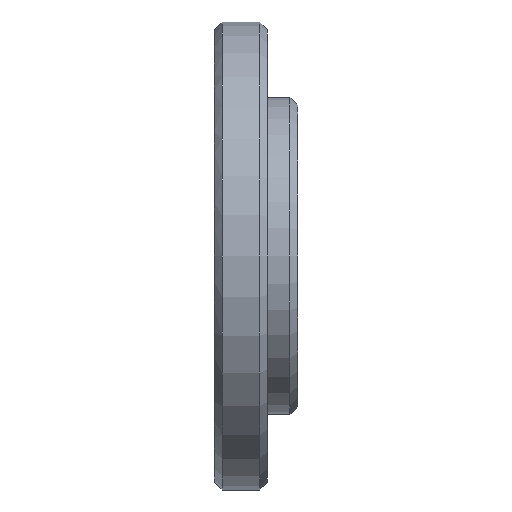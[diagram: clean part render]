
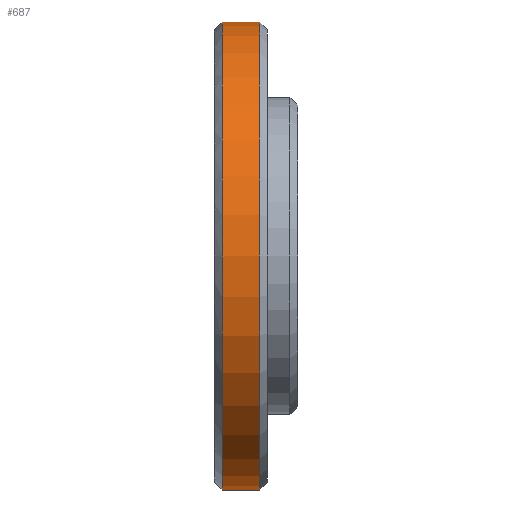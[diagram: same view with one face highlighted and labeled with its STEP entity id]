
A CAD part, front view. The second image highlights one B-rep face of the part: STEP entity #687.
In plain terms, the highlighted cylindrical face has radius 31 mm (diameter 62 mm), a partial arc.
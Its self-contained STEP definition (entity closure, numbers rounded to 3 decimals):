
#42 = DIRECTION ( 'NONE',  ( -1., 0., 0. ) ) ;
#57 = ORIENTED_EDGE ( 'NONE', *, *, #1101, .F. ) ;
#128 = ORIENTED_EDGE ( 'NONE', *, *, #1094, .T. ) ;
#130 = VERTEX_POINT ( 'NONE', #1680 ) ;
#202 = LINE ( 'NONE', #275, #1156 ) ;
#214 = ORIENTED_EDGE ( 'NONE', *, *, #1939, .T. ) ;
#275 = CARTESIAN_POINT ( 'NONE',  ( -28.631, 0., 31. ) ) ;
#292 = DIRECTION ( 'NONE',  ( -1., 0., 0. ) ) ;
#326 = FACE_OUTER_BOUND ( 'NONE', #923, .T. ) ;
#390 = VERTEX_POINT ( 'NONE', #952 ) ;
#391 = CARTESIAN_POINT ( 'NONE',  ( 1., 0., 0. ) ) ;
#444 = AXIS2_PLACEMENT_3D ( 'NONE', #857, #698, #872 ) ;
#541 = DIRECTION ( 'NONE',  ( 0., 0., -1. ) ) ;
#544 = CIRCLE ( 'NONE', #760, 31. ) ;
#687 = ADVANCED_FACE ( 'NONE', ( #326 ), #695, .T. ) ;
#695 = CYLINDRICAL_SURFACE ( 'NONE', #444, 31. ) ;
#698 = DIRECTION ( 'NONE',  ( -1., 0., 0. ) ) ;
#760 = AXIS2_PLACEMENT_3D ( 'NONE', #1188, #1428, #1582 ) ;
#857 = CARTESIAN_POINT ( 'NONE',  ( -28.631, 0., 0. ) ) ;
#872 = DIRECTION ( 'NONE',  ( 0., 0., 1. ) ) ;
#923 = EDGE_LOOP ( 'NONE', ( #57, #214, #128, #1602 ) ) ;
#931 = AXIS2_PLACEMENT_3D ( 'NONE', #391, #1510, #541 ) ;
#952 = CARTESIAN_POINT ( 'NONE',  ( 6., 0., -31. ) ) ;
#1065 = CIRCLE ( 'NONE', #931, 31. ) ;
#1094 = EDGE_CURVE ( 'NONE', #1640, #1154, #202, .T. ) ;
#1101 = EDGE_CURVE ( 'NONE', #390, #130, #1266, .T. ) ;
#1154 = VERTEX_POINT ( 'NONE', #1439 ) ;
#1156 = VECTOR ( 'NONE', #292, 1000. ) ;
#1188 = CARTESIAN_POINT ( 'NONE',  ( 6., 0., 0. ) ) ;
#1266 = LINE ( 'NONE', #1472, #1614 ) ;
#1428 = DIRECTION ( 'NONE',  ( -1., 0., 0. ) ) ;
#1439 = CARTESIAN_POINT ( 'NONE',  ( 1., 0., 31. ) ) ;
#1472 = CARTESIAN_POINT ( 'NONE',  ( -28.631, 0., -31. ) ) ;
#1510 = DIRECTION ( 'NONE',  ( 1., 0., 0. ) ) ;
#1563 = EDGE_CURVE ( 'NONE', #1154, #130, #1065, .T. ) ;
#1582 = DIRECTION ( 'NONE',  ( 0., 0., 1. ) ) ;
#1602 = ORIENTED_EDGE ( 'NONE', *, *, #1563, .T. ) ;
#1614 = VECTOR ( 'NONE', #42, 1000. ) ;
#1640 = VERTEX_POINT ( 'NONE', #1781 ) ;
#1680 = CARTESIAN_POINT ( 'NONE',  ( 1., 0., -31. ) ) ;
#1781 = CARTESIAN_POINT ( 'NONE',  ( 6., 0., 31. ) ) ;
#1939 = EDGE_CURVE ( 'NONE', #390, #1640, #544, .T. ) ;
